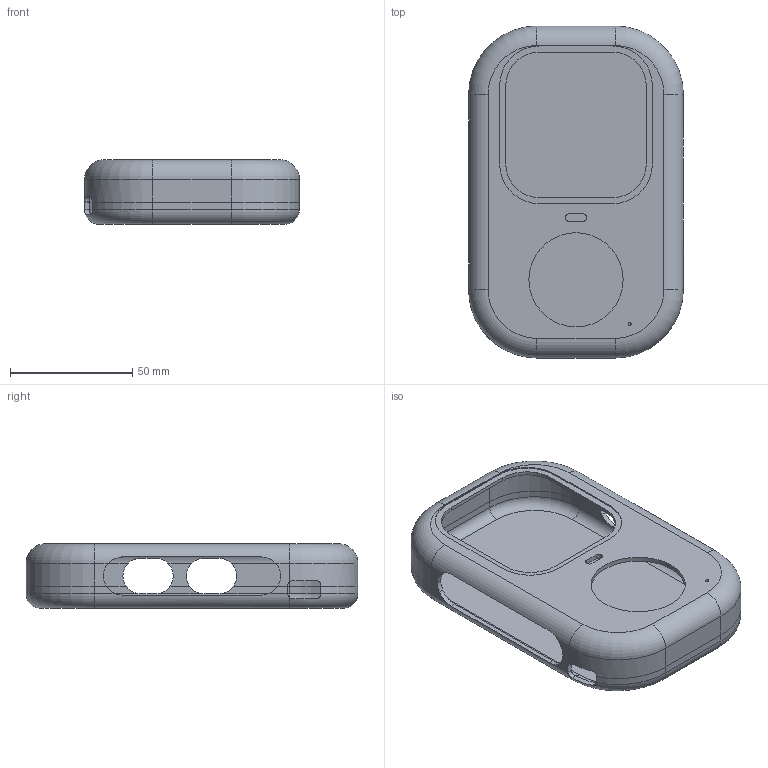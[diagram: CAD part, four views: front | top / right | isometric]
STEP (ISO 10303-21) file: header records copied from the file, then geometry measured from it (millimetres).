
FILE_DESCRIPTION(/* description */ (''),/* implementation_level */ '2;1');
FILE_NAME(/* name */ '01_Rigid_housing.step',/* time_stamp */ '2026-09-08T11:10:41-07:00',/* author */ (''),/* organization */ (''),/* preprocessor_version */ 'ST-DEVELOPER v20.1',/* originating_system */ 'Autodesk Translation Framework v15.8.0.0',/* authorisation */ '');
FILE_SCHEMA (('AUTOMOTIVE_DESIGN { 1 0 10303 214 3 1 1 }'));
Length unit declared in the file: centimetre
Products named in the file (1): 2026-09-08-11-10-41-850
Bounding box: 88 x 136 x 26.4 mm (x, y, z)
Volume: 46085.2 mm3; surface area: 48849.5 mm2
Topology: 2 solids, 2 shells, 157 faces, 423 edges, 272 vertices
Faces by surface type: plane 72, cylinder 69, torus 16
Full cylindrical faces by diameter (mm): 1.2 x1, 38.6 x1, 41 x1
Entity records: 5128 total; most frequent: CARTESIAN_POINT 1067, DIRECTION 857, ORIENTED_EDGE 846, EDGE_CURVE 423, AXIS2_PLACEMENT_3D 312, VERTEX_POINT 272, LINE 233, VECTOR 233
